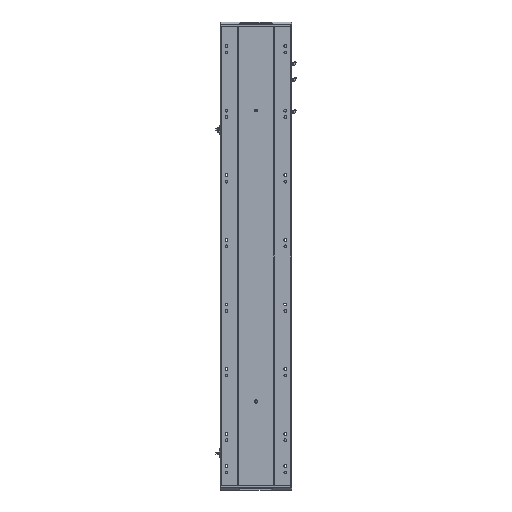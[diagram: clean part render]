
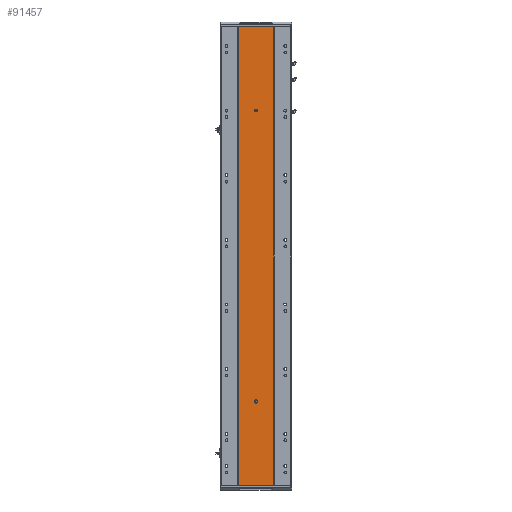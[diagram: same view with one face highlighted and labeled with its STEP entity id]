
A CAD part, front view. The second image highlights one B-rep face of the part: STEP entity #91457.
In plain terms, the highlighted planar face has unit normal (0, -1, 0).
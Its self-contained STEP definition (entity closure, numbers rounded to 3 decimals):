
#9373 = AXIS2_PLACEMENT_3D ( 'NONE', #131588, #29472, #370321 ) ;
#10514 = EDGE_CURVE ( 'NONE', #312205, #280822, #15566, .T. ) ;
#14747 = AXIS2_PLACEMENT_3D ( 'NONE', #291239, #423476, #150200 ) ;
#15566 = CIRCLE ( 'NONE', #408268, 4. ) ;
#21156 = CARTESIAN_POINT ( 'NONE',  ( 0., 0., 1420. ) ) ;
#21445 = EDGE_CURVE ( 'NONE', #376011, #372080, #192265, .T. ) ;
#29472 = DIRECTION ( 'NONE',  ( 0., 1., 0. ) ) ;
#41713 = ORIENTED_EDGE ( 'NONE', *, *, #438843, .F. ) ;
#47398 = EDGE_LOOP ( 'NONE', ( #116030, #422100, #41713, #176142 ) ) ;
#48209 = LINE ( 'NONE', #98059, #300632 ) ;
#53654 = LINE ( 'NONE', #302948, #424159 ) ;
#63697 = LINE ( 'NONE', #21156, #326982 ) ;
#77220 = VERTEX_POINT ( 'NONE', #208334 ) ;
#87483 = EDGE_CURVE ( 'NONE', #334999, #312205, #53654, .T. ) ;
#90842 = DIRECTION ( 'NONE',  ( 0., 0., -1. ) ) ;
#91457 = ADVANCED_FACE ( 'NONE', ( #423733, #348717, #305593 ), #374475, .F. ) ;
#98059 = CARTESIAN_POINT ( 'NONE',  ( -55., 0., 1420. ) ) ;
#100754 = CARTESIAN_POINT ( 'NONE',  ( 0., 0., 259. ) ) ;
#104774 = ORIENTED_EDGE ( 'NONE', *, *, #10514, .T. ) ;
#116030 = ORIENTED_EDGE ( 'NONE', *, *, #366738, .T. ) ;
#117465 = LINE ( 'NONE', #198773, #257052 ) ;
#123095 = CARTESIAN_POINT ( 'NONE',  ( -4., 0., 259. ) ) ;
#125289 = ORIENTED_EDGE ( 'NONE', *, *, #406573, .T. ) ;
#131588 = CARTESIAN_POINT ( 'NONE',  ( 0., 0., 261. ) ) ;
#135205 = CARTESIAN_POINT ( 'NONE',  ( 0., 0., 1164. ) ) ;
#143938 = AXIS2_PLACEMENT_3D ( 'NONE', #356500, #365563, #90842 ) ;
#150200 = DIRECTION ( 'NONE',  ( 0., 0., -1. ) ) ;
#167100 = DIRECTION ( 'NONE',  ( 0., 0., -1. ) ) ;
#170095 = DIRECTION ( 'NONE',  ( 0., 0., 1. ) ) ;
#170259 = DIRECTION ( 'NONE',  ( 0., 0., 1. ) ) ;
#176142 = ORIENTED_EDGE ( 'NONE', *, *, #436383, .T. ) ;
#180266 = LINE ( 'NONE', #296556, #384489 ) ;
#187428 = CARTESIAN_POINT ( 'NONE',  ( 55., 0., 0. ) ) ;
#192265 = CIRCLE ( 'NONE', #143938, 4. ) ;
#194117 = CARTESIAN_POINT ( 'NONE',  ( -4., 0., 261. ) ) ;
#198773 = CARTESIAN_POINT ( 'NONE',  ( -4., 0., 1420. ) ) ;
#208334 = CARTESIAN_POINT ( 'NONE',  ( 55., 0., 1420. ) ) ;
#220683 = EDGE_CURVE ( 'NONE', #77220, #411449, #380485, .T. ) ;
#239540 = EDGE_CURVE ( 'NONE', #434236, #334999, #355921, .T. ) ;
#245963 = CARTESIAN_POINT ( 'NONE',  ( -55., 0., 1420. ) ) ;
#247141 = CIRCLE ( 'NONE', #14747, 4. ) ;
#250231 = CARTESIAN_POINT ( 'NONE',  ( -55., 0., 0. ) ) ;
#257052 = VECTOR ( 'NONE', #170095, 1000. ) ;
#265126 = ORIENTED_EDGE ( 'NONE', *, *, #298677, .F. ) ;
#272096 = CARTESIAN_POINT ( 'NONE',  ( 4., 0., 261. ) ) ;
#274838 = DIRECTION ( 'NONE',  ( 0., 0., 1. ) ) ;
#280822 = VERTEX_POINT ( 'NONE', #123095 ) ;
#291239 = CARTESIAN_POINT ( 'NONE',  ( 0., 0., 1160. ) ) ;
#296556 = CARTESIAN_POINT ( 'NONE',  ( 0., 0., 0. ) ) ;
#298007 = CARTESIAN_POINT ( 'NONE',  ( 4., 0., 259. ) ) ;
#298677 = EDGE_CURVE ( 'NONE', #372080, #376011, #247141, .T. ) ;
#300632 = VECTOR ( 'NONE', #167100, 1000. ) ;
#302948 = CARTESIAN_POINT ( 'NONE',  ( 4., 0., 1420. ) ) ;
#305593 = FACE_OUTER_BOUND ( 'NONE', #47398, .T. ) ;
#309412 = VERTEX_POINT ( 'NONE', #250231 ) ;
#309809 = CARTESIAN_POINT ( 'NONE',  ( 0., 0., 1420. ) ) ;
#310324 = DIRECTION ( 'NONE',  ( 0., 0., -1. ) ) ;
#312205 = VERTEX_POINT ( 'NONE', #298007 ) ;
#324860 = AXIS2_PLACEMENT_3D ( 'NONE', #309809, #342867, #170259 ) ;
#326982 = VECTOR ( 'NONE', #392066, 1000. ) ;
#334999 = VERTEX_POINT ( 'NONE', #272096 ) ;
#342867 = DIRECTION ( 'NONE',  ( 0., 1., 0. ) ) ;
#348150 = VECTOR ( 'NONE', #401861, 1000. ) ;
#348717 = FACE_BOUND ( 'NONE', #362962, .T. ) ;
#355921 = CIRCLE ( 'NONE', #9373, 4. ) ;
#356500 = CARTESIAN_POINT ( 'NONE',  ( 0., 0., 1160. ) ) ;
#359348 = EDGE_LOOP ( 'NONE', ( #437635, #265126 ) ) ;
#362962 = EDGE_LOOP ( 'NONE', ( #125289, #398851, #418313, #104774 ) ) ;
#364389 = CARTESIAN_POINT ( 'NONE',  ( 55., 0., 1420. ) ) ;
#365563 = DIRECTION ( 'NONE',  ( 0., -1., 0. ) ) ;
#366738 = EDGE_CURVE ( 'NONE', #309412, #411449, #180266, .T. ) ;
#370321 = DIRECTION ( 'NONE',  ( 0., 0., 1. ) ) ;
#372080 = VERTEX_POINT ( 'NONE', #135205 ) ;
#372513 = DIRECTION ( 'NONE',  ( 0., 1., 0. ) ) ;
#374475 = PLANE ( 'NONE',  #324860 ) ;
#376011 = VERTEX_POINT ( 'NONE', #416870 ) ;
#380485 = LINE ( 'NONE', #364389, #348150 ) ;
#384489 = VECTOR ( 'NONE', #428819, 1000. ) ;
#392066 = DIRECTION ( 'NONE',  ( 1., 0., 0. ) ) ;
#393189 = VERTEX_POINT ( 'NONE', #245963 ) ;
#398851 = ORIENTED_EDGE ( 'NONE', *, *, #239540, .T. ) ;
#401861 = DIRECTION ( 'NONE',  ( 0., 0., -1. ) ) ;
#406573 = EDGE_CURVE ( 'NONE', #280822, #434236, #117465, .T. ) ;
#408268 = AXIS2_PLACEMENT_3D ( 'NONE', #100754, #372513, #274838 ) ;
#411449 = VERTEX_POINT ( 'NONE', #187428 ) ;
#416870 = CARTESIAN_POINT ( 'NONE',  ( 0., 0., 1156. ) ) ;
#418313 = ORIENTED_EDGE ( 'NONE', *, *, #87483, .T. ) ;
#422100 = ORIENTED_EDGE ( 'NONE', *, *, #220683, .F. ) ;
#423476 = DIRECTION ( 'NONE',  ( 0., -1., 0. ) ) ;
#423733 = FACE_BOUND ( 'NONE', #359348, .T. ) ;
#424159 = VECTOR ( 'NONE', #310324, 1000. ) ;
#428819 = DIRECTION ( 'NONE',  ( 1., 0., 0. ) ) ;
#434236 = VERTEX_POINT ( 'NONE', #194117 ) ;
#436383 = EDGE_CURVE ( 'NONE', #393189, #309412, #48209, .T. ) ;
#437635 = ORIENTED_EDGE ( 'NONE', *, *, #21445, .F. ) ;
#438843 = EDGE_CURVE ( 'NONE', #393189, #77220, #63697, .T. ) ;
